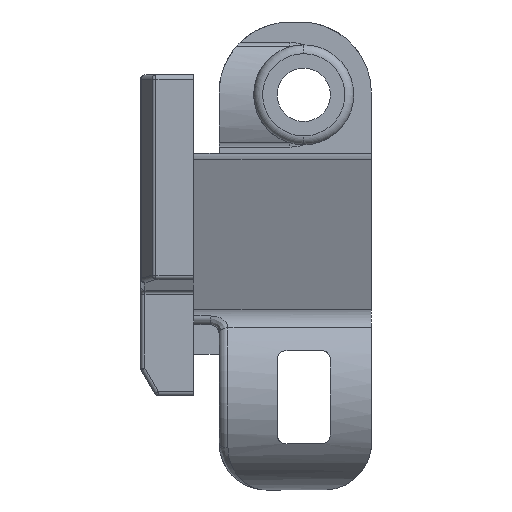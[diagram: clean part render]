
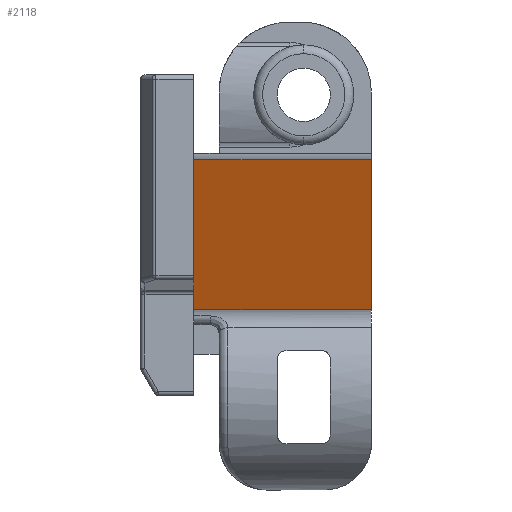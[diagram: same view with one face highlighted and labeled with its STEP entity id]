
A CAD part, left-side view. The second image highlights one B-rep face of the part: STEP entity #2118.
In plain terms, the highlighted planar face has unit normal (-0.934, 0, -0.358).
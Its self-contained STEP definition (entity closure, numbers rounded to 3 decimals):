
#168 = EDGE_LOOP ( 'NONE', ( #5714, #4034, #399, #6332 ) ) ;
#399 = ORIENTED_EDGE ( 'NONE', *, *, #6606, .F. ) ;
#594 = VECTOR ( 'NONE', #3533, 1000. ) ;
#682 = VECTOR ( 'NONE', #7526, 1000. ) ;
#775 = EDGE_CURVE ( 'NONE', #4663, #8521, #818, .T. ) ;
#818 = LINE ( 'NONE', #7927, #4292 ) ;
#1183 = DIRECTION ( 'NONE',  ( 0., 1., 0. ) ) ;
#1564 = EDGE_CURVE ( 'NONE', #5105, #4663, #6125, .T. ) ;
#1830 = DIRECTION ( 'NONE',  ( 0.358, 0., -0.934 ) ) ;
#2118 = ADVANCED_FACE ( 'NONE', ( #8472 ), #8364, .F. ) ;
#2198 = VECTOR ( 'NONE', #1183, 1000. ) ;
#2269 = CARTESIAN_POINT ( 'NONE',  ( -7.889, -20., -18.392 ) ) ;
#3084 = CARTESIAN_POINT ( 'NONE',  ( -14.367, -20., -1.517 ) ) ;
#3241 = LINE ( 'NONE', #6233, #682 ) ;
#3351 = VERTEX_POINT ( 'NONE', #6164 ) ;
#3533 = DIRECTION ( 'NONE',  ( 0., 1., 0. ) ) ;
#3536 = LINE ( 'NONE', #2269, #2198 ) ;
#4034 = ORIENTED_EDGE ( 'NONE', *, *, #6662, .F. ) ;
#4292 = VECTOR ( 'NONE', #5266, 1000. ) ;
#4663 = VERTEX_POINT ( 'NONE', #6599 ) ;
#4833 = AXIS2_PLACEMENT_3D ( 'NONE', #3084, #7089, #1830 ) ;
#5105 = VERTEX_POINT ( 'NONE', #5899 ) ;
#5266 = DIRECTION ( 'NONE',  ( 0.358, 0., -0.934 ) ) ;
#5641 = CARTESIAN_POINT ( 'NONE',  ( -14.367, -20., -1.517 ) ) ;
#5714 = ORIENTED_EDGE ( 'NONE', *, *, #775, .T. ) ;
#5899 = CARTESIAN_POINT ( 'NONE',  ( -14.367, -20., -1.517 ) ) ;
#6125 = LINE ( 'NONE', #5641, #594 ) ;
#6164 = CARTESIAN_POINT ( 'NONE',  ( -7.889, -20., -18.392 ) ) ;
#6233 = CARTESIAN_POINT ( 'NONE',  ( -14.367, -20., -1.517 ) ) ;
#6332 = ORIENTED_EDGE ( 'NONE', *, *, #1564, .T. ) ;
#6521 = CARTESIAN_POINT ( 'NONE',  ( -7.889, 0., -18.392 ) ) ;
#6599 = CARTESIAN_POINT ( 'NONE',  ( -14.367, 0., -1.517 ) ) ;
#6606 = EDGE_CURVE ( 'NONE', #5105, #3351, #3241, .T. ) ;
#6662 = EDGE_CURVE ( 'NONE', #3351, #8521, #3536, .T. ) ;
#7089 = DIRECTION ( 'NONE',  ( 0.934, 0., 0.358 ) ) ;
#7526 = DIRECTION ( 'NONE',  ( 0.358, 0., -0.934 ) ) ;
#7927 = CARTESIAN_POINT ( 'NONE',  ( -14.367, 0., -1.517 ) ) ;
#8364 = PLANE ( 'NONE',  #4833 ) ;
#8472 = FACE_OUTER_BOUND ( 'NONE', #168, .T. ) ;
#8521 = VERTEX_POINT ( 'NONE', #6521 ) ;
